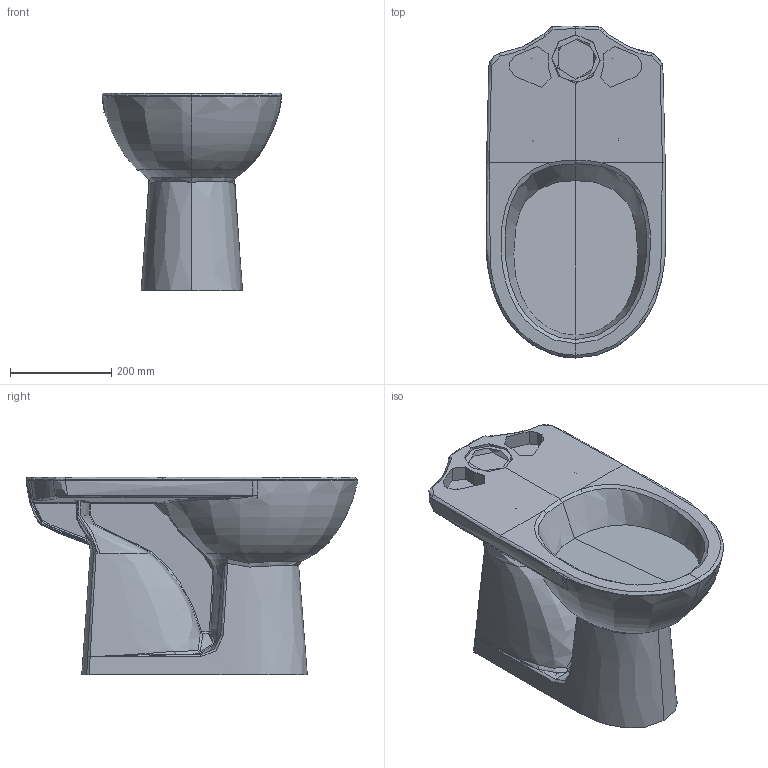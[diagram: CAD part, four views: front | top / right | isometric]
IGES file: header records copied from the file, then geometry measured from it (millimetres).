
Global section: file name: 500281; native system: Autodesk Inventor 2018; preprocessor: unknown; author: JANAN; date: 20200527.082658; units: millimetre
Bounding box: 353.92 x 655 x 390 mm (x, y, z)
Volume: 27776649.4 mm3; surface area: 1061498 mm2
Topology: 1 solids, 1 shells, 340 faces, 787 edges, 453 vertices
Faces by surface type: bspline 340
